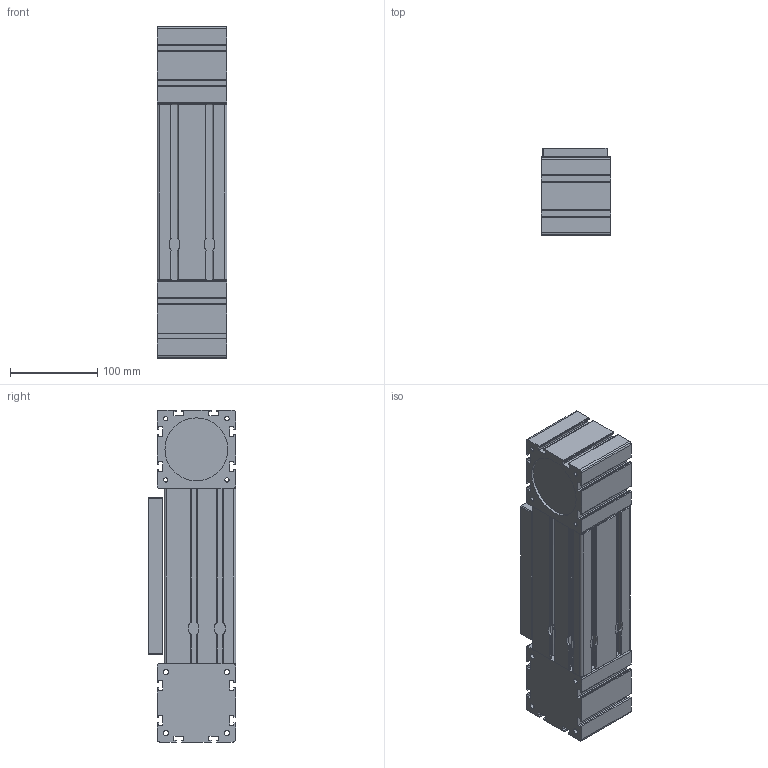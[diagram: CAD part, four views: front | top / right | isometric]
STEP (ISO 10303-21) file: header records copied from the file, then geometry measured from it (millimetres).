
FILE_DESCRIPTION (( 'STEP AP214' ), '1' );
FILE_NAME ('ML80HPC-11-.STEP', '2020-05-07T08:15:03', ( '' ), ( '' ), 'SwSTEP 2.0', 'SolidWorks 2019', '' );
FILE_SCHEMA (( 'AUTOMOTIVE_DESIGN' ));
Length unit declared in the file: millimetre
Products named in the file (1): ML80HPC-11-
Bounding box: 80 x 100 x 380 mm (x, y, z)
Volume: 2609397.1 mm3; surface area: 266663.4 mm2
Topology: 4 solids, 4 shells, 422 faces, 1236 edges, 824 vertices
Faces by surface type: plane 226, cylinder 196
Entity records: 20506 total; most frequent: CARTESIAN_POINT 4426, ORIENTED_EDGE 2472, DIRECTION 2298, EDGE_CURVE 1236, LINE 828, VECTOR 828, VERTEX_POINT 824, AXIS2_PLACEMENT_3D 735
